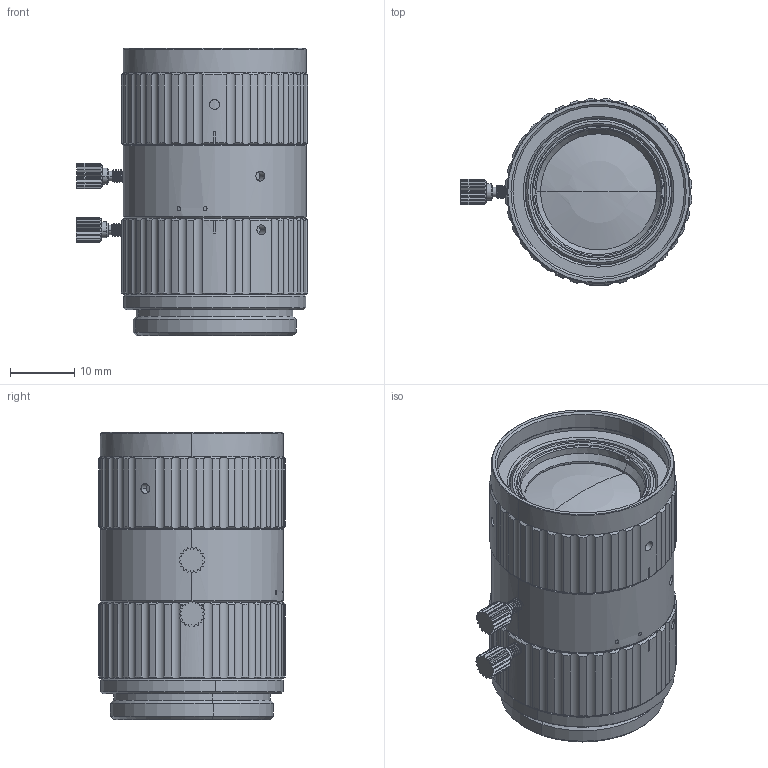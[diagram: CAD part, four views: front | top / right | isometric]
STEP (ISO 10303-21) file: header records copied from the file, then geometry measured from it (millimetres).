
FILE_DESCRIPTION((''),'2;1');
FILE_NAME('FA1610A-200_ASM_ASM','2019-02-20T',('Administrator'),(''),'PRO/ENGINEER BY PARAMETRIC TECHNOLOGY CORPORATION, 2010370','PRO/ENGINEER BY PARAMETRIC TECHNOLOGY CORPORATION, 2010370','');
FILE_SCHEMA(('CONFIG_CONTROL_DESIGN'));
Length unit declared in the file: millimetre
Products named in the file (16): MSBR-68; MSBR-67; MSBR-61; MSBR-60; MSBR-59; MSBR-58; MSBR-57; MSBR-56; MSBR-52; MSBR-47; MSBR-46; MSBR-43; MSBR-42; MSBR-37; MSBR-1; FA1610A-200_ASM_ASM
Assembly tree (15 placements, depth 2):
  FA1610A-200_ASM_ASM
    MSBR-68
    MSBR-67
    MSBR-61
    MSBR-60
    MSBR-59
    MSBR-58
    MSBR-57
    MSBR-56
    MSBR-52
    MSBR-47
    MSBR-46
    MSBR-43
    MSBR-42
    MSBR-37
    MSBR-1
Bounding box: 35.98 x 28.98 x 44.55 mm (x, y, z)
Volume: 11080 mm3; surface area: 18271.7 mm2
Topology: 15 solids, 15 shells, 907 faces, 2274 edges, 1414 vertices
Faces by surface type: cylinder 372, cone 310, plane 187, bspline 18, torus 12, sphere 8
Entity records: 33832 total; most frequent: CARTESIAN_POINT 12225, ORIENTED_EDGE 4512, DIRECTION 4485, EDGE_CURVE 2256, AXIS2_PLACEMENT_3D 1853, VERTEX_POINT 1420, EDGE_LOOP 980, CIRCLE 944
